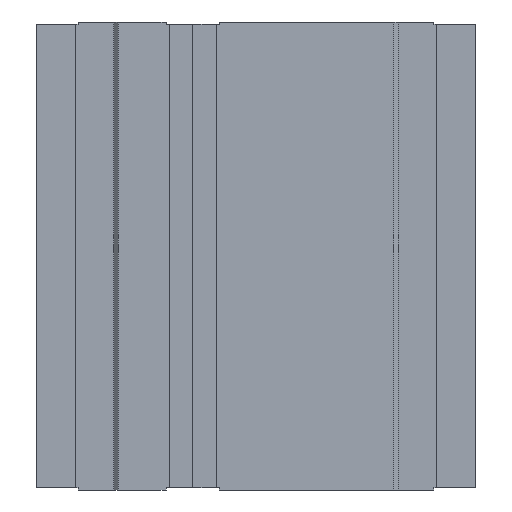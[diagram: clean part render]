
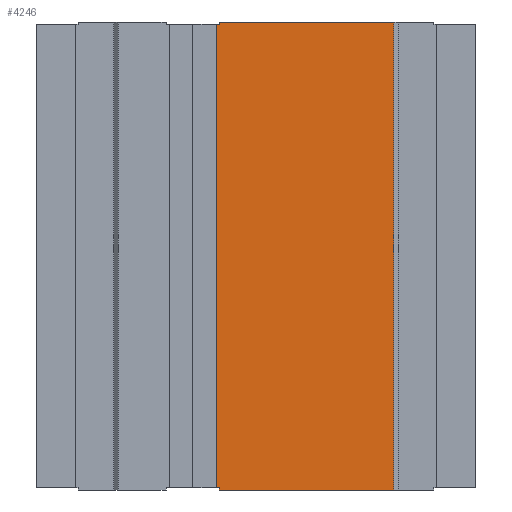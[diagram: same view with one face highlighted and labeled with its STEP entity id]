
A CAD part, left-side view. The second image highlights one B-rep face of the part: STEP entity #4246.
In plain terms, the highlighted planar face has unit normal (-1, 0, 0).
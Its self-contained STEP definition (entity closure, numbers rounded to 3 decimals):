
#58 = CARTESIAN_POINT ( 'NONE',  ( -61.5, -11.3, -98. ) ) ;
#112 = FACE_OUTER_BOUND ( 'NONE', #4333, .T. ) ;
#113 = PLANE ( 'NONE',  #114 ) ;
#114 = AXIS2_PLACEMENT_3D ( 'NONE', #115, #116, #117 ) ;
#115 = CARTESIAN_POINT ( 'NONE',  ( -61.5, -10., 98. ) ) ;
#116 = DIRECTION ( 'NONE',  ( 1., 0., 0. ) ) ;
#117 = DIRECTION ( 'NONE',  ( 0., 1., 0. ) ) ;
#562 = LINE ( 'NONE', #563, #564 ) ;
#563 = CARTESIAN_POINT ( 'NONE',  ( -61.5, -10., -98. ) ) ;
#564 = VECTOR ( 'NONE', #565, 1000. ) ;
#565 = DIRECTION ( 'NONE',  ( 0., -1., 0. ) ) ;
#742 = CARTESIAN_POINT ( 'NONE',  ( -61.5, -10., -98. ) ) ;
#1055 = LINE ( 'NONE', #1057, #1058 ) ;
#1057 = CARTESIAN_POINT ( 'NONE',  ( -61.5, -11.3, -99. ) ) ;
#1058 = VECTOR ( 'NONE', #1059, 1000. ) ;
#1059 = DIRECTION ( 'NONE',  ( 0., 0., 1. ) ) ;
#1221 = CARTESIAN_POINT ( 'NONE',  ( -61.5, -11.3, -99. ) ) ;
#1697 = LINE ( 'NONE', #1698, #1699 ) ;
#1698 = CARTESIAN_POINT ( 'NONE',  ( -61.5, -11.3, -99. ) ) ;
#1699 = VECTOR ( 'NONE', #1700, 1000. ) ;
#1700 = DIRECTION ( 'NONE',  ( 0., -1., 0. ) ) ;
#1806 = CARTESIAN_POINT ( 'NONE',  ( -61.5, -85., -99. ) ) ;
#2192 = LINE ( 'NONE', #2193, #2194 ) ;
#2193 = CARTESIAN_POINT ( 'NONE',  ( -61.5, -85., 98. ) ) ;
#2194 = VECTOR ( 'NONE', #2195, 1000. ) ;
#2195 = DIRECTION ( 'NONE',  ( 0., 0., -1. ) ) ;
#2304 = CARTESIAN_POINT ( 'NONE',  ( -61.5, -85., 99. ) ) ;
#2701 = LINE ( 'NONE', #2702, #2703 ) ;
#2702 = CARTESIAN_POINT ( 'NONE',  ( -61.5, -11.3, 99. ) ) ;
#2703 = VECTOR ( 'NONE', #2704, 1000. ) ;
#2704 = DIRECTION ( 'NONE',  ( 0., -1., 0. ) ) ;
#2866 = CARTESIAN_POINT ( 'NONE',  ( -61.5, -11.3, 99. ) ) ;
#4246 = ADVANCED_FACE ( 'NONE', ( #112 ), #113, .F. ) ;
#4333 = EDGE_LOOP ( 'NONE', ( #4456, #4592, #4940, #5220, #5501, #5793, #6322, #7292 ) ) ;
#4456 = ORIENTED_EDGE ( 'NONE', *, *, #10138, .T. ) ;
#4592 = ORIENTED_EDGE ( 'NONE', *, *, #4679, .F. ) ;
#4679 = EDGE_CURVE ( 'NONE', #4748, #9417, #1055, .T. ) ;
#4748 = VERTEX_POINT ( 'NONE', #1221 ) ;
#4940 = ORIENTED_EDGE ( 'NONE', *, *, #5026, .T. ) ;
#5026 = EDGE_CURVE ( 'NONE', #4748, #5105, #1697, .T. ) ;
#5105 = VERTEX_POINT ( 'NONE', #1806 ) ;
#5220 = ORIENTED_EDGE ( 'NONE', *, *, #5309, .F. ) ;
#5309 = EDGE_CURVE ( 'NONE', #5373, #5105, #2192, .T. ) ;
#5373 = VERTEX_POINT ( 'NONE', #2304 ) ;
#5501 = ORIENTED_EDGE ( 'NONE', *, *, #5589, .F. ) ;
#5589 = EDGE_CURVE ( 'NONE', #5657, #5373, #2701, .T. ) ;
#5657 = VERTEX_POINT ( 'NONE', #2866 ) ;
#5793 = ORIENTED_EDGE ( 'NONE', *, *, #5869, .T. ) ;
#5869 = EDGE_CURVE ( 'NONE', #5657, #5944, #7965, .T. ) ;
#5944 = VERTEX_POINT ( 'NONE', #8143 ) ;
#6322 = ORIENTED_EDGE ( 'NONE', *, *, #6701, .F. ) ;
#6701 = EDGE_CURVE ( 'NONE', #7946, #5944, #8767, .T. ) ;
#7292 = ORIENTED_EDGE ( 'NONE', *, *, #7674, .T. ) ;
#7674 = EDGE_CURVE ( 'NONE', #7946, #10368, #9449, .T. ) ;
#7946 = VERTEX_POINT ( 'NONE', #9615 ) ;
#7965 = LINE ( 'NONE', #7966, #7967 ) ;
#7966 = CARTESIAN_POINT ( 'NONE',  ( -61.5, -11.3, 99. ) ) ;
#7967 = VECTOR ( 'NONE', #7968, 1000. ) ;
#7968 = DIRECTION ( 'NONE',  ( 0., 0., -1. ) ) ;
#8143 = CARTESIAN_POINT ( 'NONE',  ( -61.5, -11.3, 98. ) ) ;
#8767 = LINE ( 'NONE', #8769, #8770 ) ;
#8769 = CARTESIAN_POINT ( 'NONE',  ( -61.5, -10., 98. ) ) ;
#8770 = VECTOR ( 'NONE', #8771, 1000. ) ;
#8771 = DIRECTION ( 'NONE',  ( 0., -1., 0. ) ) ;
#9417 = VERTEX_POINT ( 'NONE', #58 ) ;
#9449 = LINE ( 'NONE', #9450, #9451 ) ;
#9450 = CARTESIAN_POINT ( 'NONE',  ( -61.5, -10., 98. ) ) ;
#9451 = VECTOR ( 'NONE', #9452, 1000. ) ;
#9452 = DIRECTION ( 'NONE',  ( 0., 0., -1. ) ) ;
#9615 = CARTESIAN_POINT ( 'NONE',  ( -61.5, -10., 98. ) ) ;
#10138 = EDGE_CURVE ( 'NONE', #10368, #9417, #562, .T. ) ;
#10368 = VERTEX_POINT ( 'NONE', #742 ) ;
